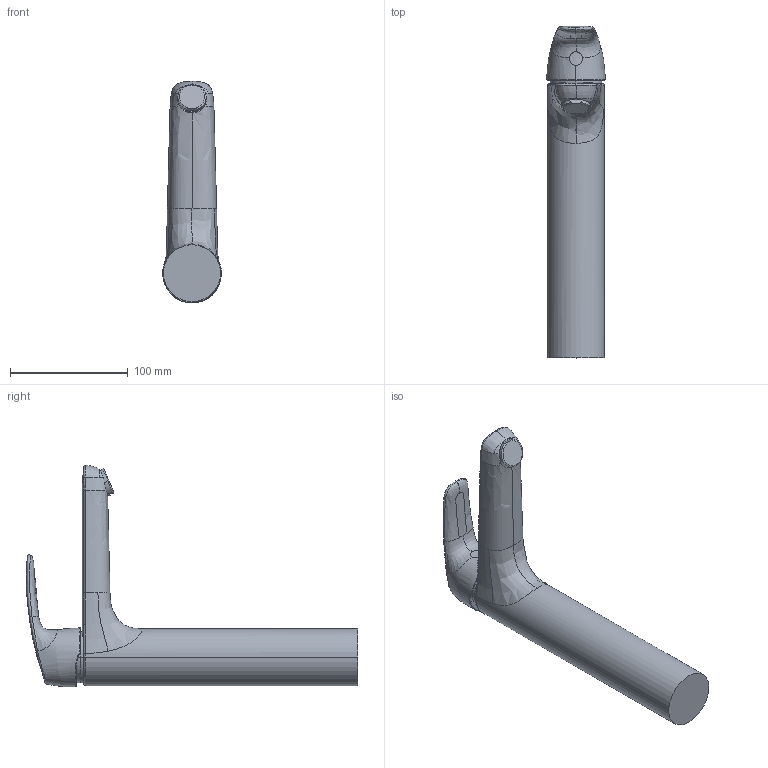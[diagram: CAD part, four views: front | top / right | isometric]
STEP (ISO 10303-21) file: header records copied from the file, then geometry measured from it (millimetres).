
FILE_DESCRIPTION (( 'STEP AP203' ), '1' );
FILE_NAME ('1006F(2022).STEP', '2022-08-22T12:15:08', ( '' ), ( '' ), 'SwSTEP 2.0', 'SolidWorks 2016', '' );
FILE_SCHEMA (( 'CONFIG_CONTROL_DESIGN' ));
Length unit declared in the file: millimetre
Products named in the file (1): 1006F(2022)
Bounding box: 49.68 x 281.21 x 187.89 mm (x, y, z)
Volume: 617525.6 mm3; surface area: 63800.2 mm2
Topology: 1 solids, 1 shells, 89 faces, 220 edges, 135 vertices
Faces by surface type: bspline 62, cylinder 10, plane 9, cone 8
Entity records: 17189 total; most frequent: CARTESIAN_POINT 15560, ORIENTED_EDGE 440, EDGE_CURVE 220, B_SPLINE_CURVE_WITH_KNOTS 172, VERTEX_POINT 135, DIRECTION 124, EDGE_LOOP 91, ADVANCED_FACE 89
